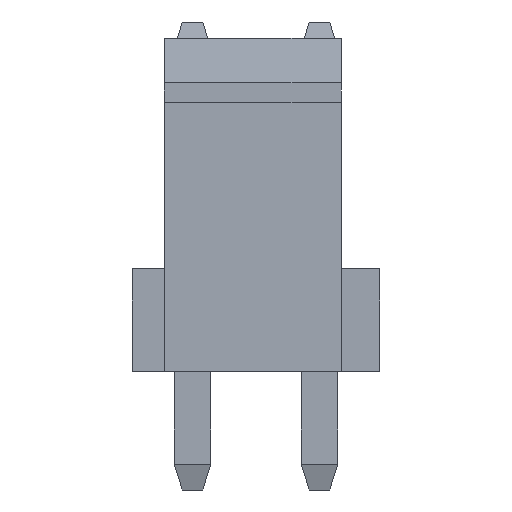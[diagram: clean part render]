
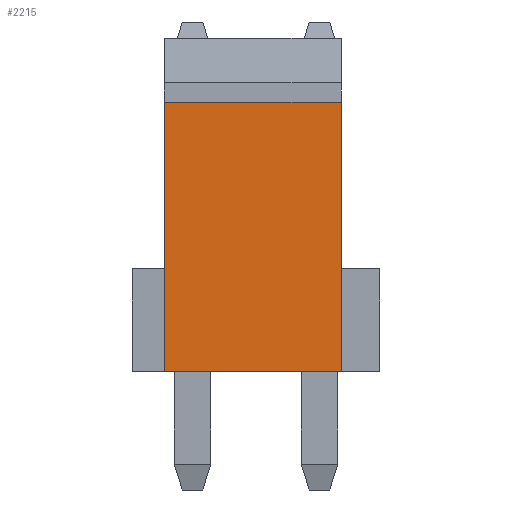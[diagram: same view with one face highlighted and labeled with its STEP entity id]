
A CAD part, left-side view. The second image highlights one B-rep face of the part: STEP entity #2215.
In plain terms, the highlighted planar face has unit normal (-1, 0, 0).
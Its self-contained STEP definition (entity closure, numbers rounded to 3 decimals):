
#892 = PLANE('',#893);
#893 = AXIS2_PLACEMENT_3D('',#894,#895,#896);
#894 = CARTESIAN_POINT('',(-3.2,-0.68,0.));
#895 = DIRECTION('',(0.,1.,0.));
#896 = DIRECTION('',(0.,0.,1.));
#996 = PLANE('',#997);
#997 = AXIS2_PLACEMENT_3D('',#998,#999,#1000);
#998 = CARTESIAN_POINT('',(-3.2,4.84,0.));
#999 = DIRECTION('',(0.,1.,0.));
#1000 = DIRECTION('',(0.,0.,1.));
#1408 = VERTEX_POINT('',#1409);
#1409 = CARTESIAN_POINT('',(-3.2,-0.68,0.));
#1423 = PLANE('',#1424);
#1424 = AXIS2_PLACEMENT_3D('',#1425,#1426,#1427);
#1425 = CARTESIAN_POINT('',(-3.2,-0.68,0.));
#1426 = DIRECTION('',(0.,0.,1.));
#1427 = DIRECTION('',(1.,0.,0.));
#1435 = EDGE_CURVE('',#1408,#1436,#1438,.T.);
#1436 = VERTEX_POINT('',#1437);
#1437 = CARTESIAN_POINT('',(-3.2,-0.68,8.4));
#1438 = SURFACE_CURVE('',#1439,(#1443,#1450),.PCURVE_S1.);
#1439 = LINE('',#1440,#1441);
#1440 = CARTESIAN_POINT('',(-3.2,-0.68,0.));
#1441 = VECTOR('',#1442,1.);
#1442 = DIRECTION('',(0.,0.,1.));
#1443 = PCURVE('',#892,#1444);
#1444 = DEFINITIONAL_REPRESENTATION('',(#1445),#1449);
#1445 = LINE('',#1446,#1447);
#1446 = CARTESIAN_POINT('',(0.,0.));
#1447 = VECTOR('',#1448,1.);
#1448 = DIRECTION('',(1.,0.));
#1449 = ( GEOMETRIC_REPRESENTATION_CONTEXT(2) 
PARAMETRIC_REPRESENTATION_CONTEXT() REPRESENTATION_CONTEXT('2D SPACE',''
  ) );
#1450 = PCURVE('',#1451,#1456);
#1451 = PLANE('',#1452);
#1452 = AXIS2_PLACEMENT_3D('',#1453,#1454,#1455);
#1453 = CARTESIAN_POINT('',(-3.2,-0.68,0.));
#1454 = DIRECTION('',(1.,0.,0.));
#1455 = DIRECTION('',(0.,0.,1.));
#1456 = DEFINITIONAL_REPRESENTATION('',(#1457),#1461);
#1457 = LINE('',#1458,#1459);
#1458 = CARTESIAN_POINT('',(0.,0.));
#1459 = VECTOR('',#1460,1.);
#1460 = DIRECTION('',(1.,0.));
#1461 = ( GEOMETRIC_REPRESENTATION_CONTEXT(2) 
PARAMETRIC_REPRESENTATION_CONTEXT() REPRESENTATION_CONTEXT('2D SPACE',''
  ) );
#1833 = VERTEX_POINT('',#1834);
#1834 = CARTESIAN_POINT('',(-3.2,4.84,0.));
#1855 = EDGE_CURVE('',#1833,#1856,#1858,.T.);
#1856 = VERTEX_POINT('',#1857);
#1857 = CARTESIAN_POINT('',(-3.2,4.84,8.4));
#1858 = SURFACE_CURVE('',#1859,(#1863,#1870),.PCURVE_S1.);
#1859 = LINE('',#1860,#1861);
#1860 = CARTESIAN_POINT('',(-3.2,4.84,0.));
#1861 = VECTOR('',#1862,1.);
#1862 = DIRECTION('',(0.,0.,1.));
#1863 = PCURVE('',#996,#1864);
#1864 = DEFINITIONAL_REPRESENTATION('',(#1865),#1869);
#1865 = LINE('',#1866,#1867);
#1866 = CARTESIAN_POINT('',(0.,0.));
#1867 = VECTOR('',#1868,1.);
#1868 = DIRECTION('',(1.,0.));
#1869 = ( GEOMETRIC_REPRESENTATION_CONTEXT(2) 
PARAMETRIC_REPRESENTATION_CONTEXT() REPRESENTATION_CONTEXT('2D SPACE',''
  ) );
#1870 = PCURVE('',#1451,#1871);
#1871 = DEFINITIONAL_REPRESENTATION('',(#1872),#1876);
#1872 = LINE('',#1873,#1874);
#1873 = CARTESIAN_POINT('',(0.,-5.52));
#1874 = VECTOR('',#1875,1.);
#1875 = DIRECTION('',(1.,0.));
#1876 = ( GEOMETRIC_REPRESENTATION_CONTEXT(2) 
PARAMETRIC_REPRESENTATION_CONTEXT() REPRESENTATION_CONTEXT('2D SPACE',''
  ) );
#2105 = EDGE_CURVE('',#1408,#1833,#2106,.T.);
#2106 = SURFACE_CURVE('',#2107,(#2111,#2118),.PCURVE_S1.);
#2107 = LINE('',#2108,#2109);
#2108 = CARTESIAN_POINT('',(-3.2,-0.68,0.));
#2109 = VECTOR('',#2110,1.);
#2110 = DIRECTION('',(0.,1.,0.));
#2111 = PCURVE('',#1423,#2112);
#2112 = DEFINITIONAL_REPRESENTATION('',(#2113),#2117);
#2113 = LINE('',#2114,#2115);
#2114 = CARTESIAN_POINT('',(0.,0.));
#2115 = VECTOR('',#2116,1.);
#2116 = DIRECTION('',(0.,1.));
#2117 = ( GEOMETRIC_REPRESENTATION_CONTEXT(2) 
PARAMETRIC_REPRESENTATION_CONTEXT() REPRESENTATION_CONTEXT('2D SPACE',''
  ) );
#2118 = PCURVE('',#1451,#2119);
#2119 = DEFINITIONAL_REPRESENTATION('',(#2120),#2124);
#2120 = LINE('',#2121,#2122);
#2121 = CARTESIAN_POINT('',(0.,0.));
#2122 = VECTOR('',#2123,1.);
#2123 = DIRECTION('',(0.,-1.));
#2124 = ( GEOMETRIC_REPRESENTATION_CONTEXT(2) 
PARAMETRIC_REPRESENTATION_CONTEXT() REPRESENTATION_CONTEXT('2D SPACE',''
  ) );
#2148 = PLANE('',#2149);
#2149 = AXIS2_PLACEMENT_3D('',#2150,#2151,#2152);
#2150 = CARTESIAN_POINT('',(-3.8,-0.68,8.4));
#2151 = DIRECTION('',(0.,0.,1.));
#2152 = DIRECTION('',(1.,0.,0.));
#2215 = ADVANCED_FACE('',(#2216),#1451,.F.);
#2216 = FACE_BOUND('',#2217,.F.);
#2217 = EDGE_LOOP('',(#2218,#2219,#2220,#2221));
#2218 = ORIENTED_EDGE('',*,*,#1435,.F.);
#2219 = ORIENTED_EDGE('',*,*,#2105,.T.);
#2220 = ORIENTED_EDGE('',*,*,#1855,.T.);
#2221 = ORIENTED_EDGE('',*,*,#2222,.F.);
#2222 = EDGE_CURVE('',#1436,#1856,#2223,.T.);
#2223 = SURFACE_CURVE('',#2224,(#2228,#2235),.PCURVE_S1.);
#2224 = LINE('',#2225,#2226);
#2225 = CARTESIAN_POINT('',(-3.2,-0.68,8.4));
#2226 = VECTOR('',#2227,1.);
#2227 = DIRECTION('',(0.,1.,0.));
#2228 = PCURVE('',#1451,#2229);
#2229 = DEFINITIONAL_REPRESENTATION('',(#2230),#2234);
#2230 = LINE('',#2231,#2232);
#2231 = CARTESIAN_POINT('',(8.4,0.));
#2232 = VECTOR('',#2233,1.);
#2233 = DIRECTION('',(0.,-1.));
#2234 = ( GEOMETRIC_REPRESENTATION_CONTEXT(2) 
PARAMETRIC_REPRESENTATION_CONTEXT() REPRESENTATION_CONTEXT('2D SPACE',''
  ) );
#2235 = PCURVE('',#2148,#2236);
#2236 = DEFINITIONAL_REPRESENTATION('',(#2237),#2241);
#2237 = LINE('',#2238,#2239);
#2238 = CARTESIAN_POINT('',(0.6,0.));
#2239 = VECTOR('',#2240,1.);
#2240 = DIRECTION('',(0.,1.));
#2241 = ( GEOMETRIC_REPRESENTATION_CONTEXT(2) 
PARAMETRIC_REPRESENTATION_CONTEXT() REPRESENTATION_CONTEXT('2D SPACE',''
  ) );
